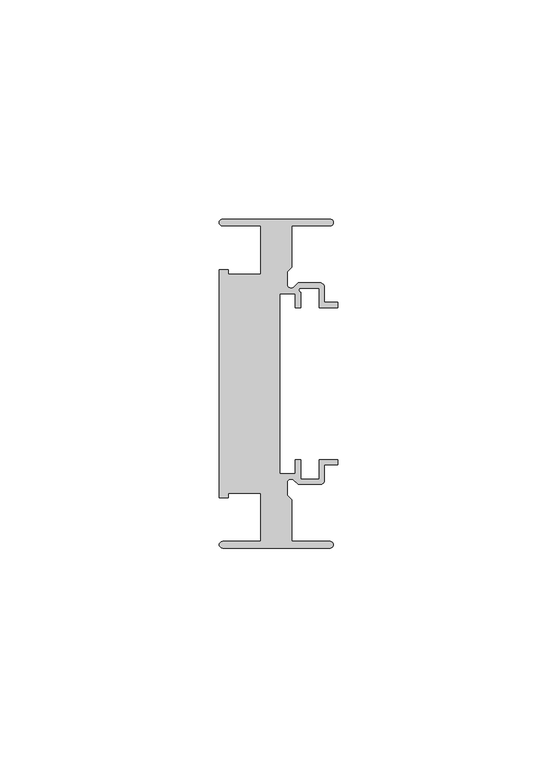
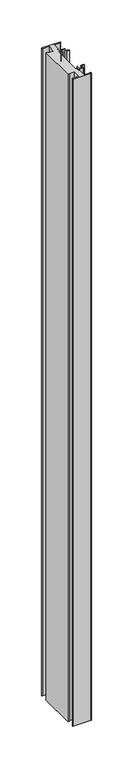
"""IFC4 building model written with IfcOpenShell, lengths in millimetres: member geometry, Прямоугольный импост : 7-AMG-2-Профиль 26Х75 Верх П."""

from ifc_helpers import new_model, si_unit, point, frame, frame_2d, origin, place, context, project, spatial, polyline, circle_curve, trimmed, segment, composite_curve, outline, extrude, source, transform, mapped, element, save


def member_c077e5c1(model_context):
    return source(origin(), model_context, "Body", "SweptSolid", [
        extrude(outline(composite_curve([segment(polyline([(-1.7, -37.5), (-26.25, -37.5)]), True, "CONTINUOUS"), segment(trimmed(circle_curve(frame_2d((-26.25, -36.75)), 0.75), [point((-26.25, -37.5))], [point((-26.25, -36.0))], False, "CARTESIAN"), True, "CONTINUOUS"), segment(polyline([(-26.25, -36.0), (-17.5, -36.0), (-17.5, -25.0), (-24.9359877, -25.0), (-24.9359877, -26.0), (-27.0, -26.0), (-27.0, 26.0), (-24.9359877, 26.0), (-24.9359877, 25.0), (-17.5, 25.0), (-17.5, 36.0), (-26.25, 36.0)]), True, "CONTINUOUS"), segment(trimmed(circle_curve(frame_2d((-26.25, 36.75)), 0.75), [point((-26.25, 36.0))], [point((-26.25, 37.5))], False, "CARTESIAN"), True, "CONTINUOUS"), segment(polyline([(-26.25, 37.5), (-1.7, 37.5)]), True, "CONTINUOUS"), segment(trimmed(circle_curve(frame_2d((-1.7, 36.75)), 0.75), [point((-1.7, 37.5))], [point((-1.7, 36.0))], False, "CARTESIAN"), True, "CONTINUOUS"), segment(polyline([(-1.7, 36.0), (-10.5, 36.0), (-10.5, 26.5029437), (-11.5, 25.5029437), (-11.5, 22.6727922)]), True, "CONTINUOUS"), segment(trimmed(circle_curve(frame_2d((-10.6, 22.6727922)), 0.9), [point((-11.5, 22.6727922))], [point((-9.9636039, 22.0363961))], True, "CARTESIAN"), True, "CONTINUOUS"), segment(polyline([(-9.9636039, 22.0363961), (-9.0, 23.0), (-4.0, 23.0)]), True, "CONTINUOUS"), segment(trimmed(circle_curve(frame_2d((-4.0, 22.0)), 1.0), [point((-4.0, 23.0))], [point((-3.0, 22.0))], False, "CARTESIAN"), True, "CONTINUOUS"), segment(polyline([(-3.0, 22.0), (-3.0, 18.55), (0.0, 18.55), (0.0, 17.35), (-4.2, 17.35), (-4.2, 21.8), (-8.5029437, 21.8)]), True, "CONTINUOUS"), segment(trimmed(circle_curve(frame_2d((-8.3343131, 21.3314262)), 0.4979937), [point((-8.5029437, 21.8))], [point((-8.45, 20.8470563))], True, "CARTESIAN"), True, "CONTINUOUS"), segment(polyline([(-8.45, 20.8470563), (-8.45, 17.35), (-9.65, 17.35), (-9.65, 20.55), (-13.15, 20.55), (-13.15, -20.55), (-9.65, -20.55), (-9.65, -17.35), (-8.45, -17.35), (-8.45, -21.8), (-4.2, -21.8), (-4.2, -17.35), (0.0, -17.35), (0.0, -18.55), (-3.0, -18.55), (-3.0, -22.0)]), True, "CONTINUOUS"), segment(trimmed(circle_curve(frame_2d((-4.0, -22.0)), 1.0), [point((-3.0, -22.0))], [point((-4.0, -23.0))], False, "CARTESIAN"), True, "CONTINUOUS"), segment(polyline([(-4.0, -23.0), (-9.0, -23.0), (-9.9636039, -22.0363961)]), True, "CONTINUOUS"), segment(trimmed(circle_curve(frame_2d((-10.6, -22.6727922)), 0.9), [point((-9.9636039, -22.0363961))], [point((-11.5, -22.6727922))], True, "CARTESIAN"), True, "CONTINUOUS"), segment(polyline([(-11.5, -22.6727922), (-11.5, -25.5029437), (-10.5, -26.5029437), (-10.5, -36.0), (-1.7, -36.0)]), True, "CONTINUOUS"), segment(trimmed(circle_curve(frame_2d((-1.7, -36.75)), 0.75), [point((-1.7, -36.0))], [point((-1.7, -37.5))], False, "CARTESIAN"), True, "CONTINUOUS")], self_intersect=False)), frame((0.0, 0.0, -947.5011211), z_axis=(0.0, 0.0, 1.0), x_axis=(1.0, 0.0, 0.0)), (0.0, 0.0, 1.0), 947.5011211),
    ])


if __name__ == "__main__":
    model = new_model("IFC4")
    model_context = context("Model", 3, world=origin())
    ifc_project = project(units=[si_unit("LENGTHUNIT", "METRE", prefix="MILLI")], contexts=[model_context])
    site = spatial("IfcSite", under=ifc_project)
    building = spatial("IfcBuilding", under=site)
    placement = place(None, origin())
    member_shape = member_c077e5c1(model_context)
    element("IfcMember", 1, ObjectType="Прямоугольный импост : 7-AMG-2-Профиль 26Х75 Верх П", at=placement, inside=building, context=model_context, shape_type="MappedRepresentation", body=[
        mapped(member_shape, transform((0.0, 0.0, 0.0), x_axis=(1.0, 0.0, 0.0), y_axis=(0.0, 1.0, 0.0), z_axis=(0.0, 0.0, 1.0))),
    ])
    save(model, "model.ifc")
